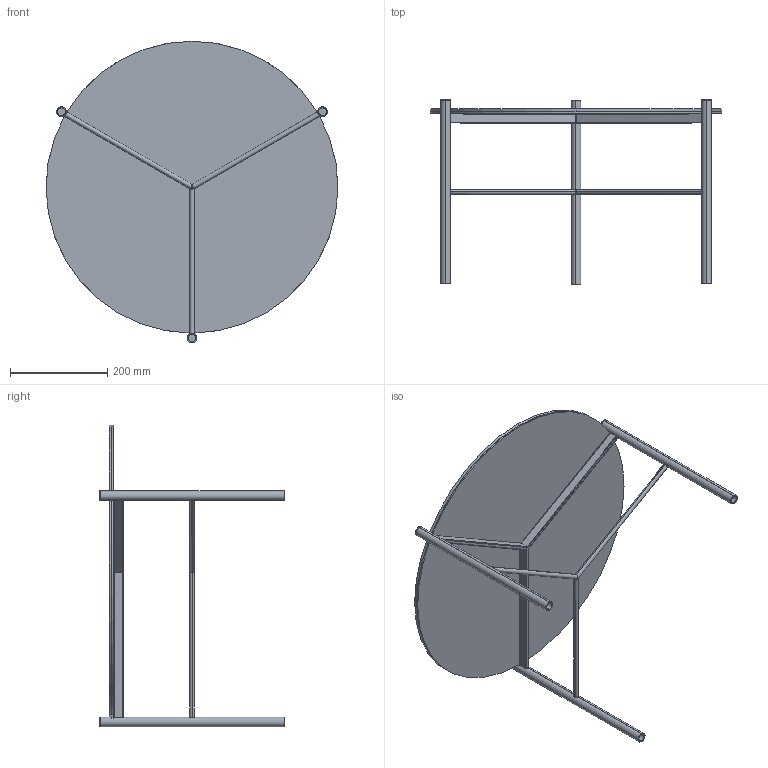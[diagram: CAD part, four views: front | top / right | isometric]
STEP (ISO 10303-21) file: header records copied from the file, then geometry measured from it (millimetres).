
FILE_DESCRIPTION (( 'STEP AP203' ), '1' );
FILE_NAME ('J201G.STEP', '2024-08-06T11:31:45', ( '' ), ( '' ), 'SwSTEP 2.0', 'SolidWorks 2022', '' );
FILE_SCHEMA (( 'CONFIG_CONTROL_DESIGN' ));
Length unit declared in the file: millimetre
Products named in the file (3): JXXXS00000000-00-jack metallo grezzo tutte le misure_J201S00000000-JACK TAVOLINO D.60x36h<A macchina>; J201G; C1XCRMXX-00-piani Rotondi Cristallo_C01 D.60cm
Assembly tree (2 placements, depth 2):
  J201G
    JXXXS00000000-00-jack metallo grezzo tutte le misure_J201S00000000-JACK TAVOLINO D.60x36h<A macchina>
    C1XCRMXX-00-piani Rotondi Cristallo_C01 D.60cm
Bounding box: 600 x 379 x 620.07 mm (x, y, z)
Volume: 2745191.1 mm3; surface area: 1420691.9 mm2
Topology: 14 solids, 14 shells, 125 faces, 293 edges, 194 vertices
Faces by surface type: cylinder 73, plane 52
Entity records: 4516 total; most frequent: CARTESIAN_POINT 1449, ORIENTED_EDGE 586, DIRECTION 541, EDGE_CURVE 293, AXIS2_PLACEMENT_3D 196, VERTEX_POINT 194, VECTOR 149, LINE 149
